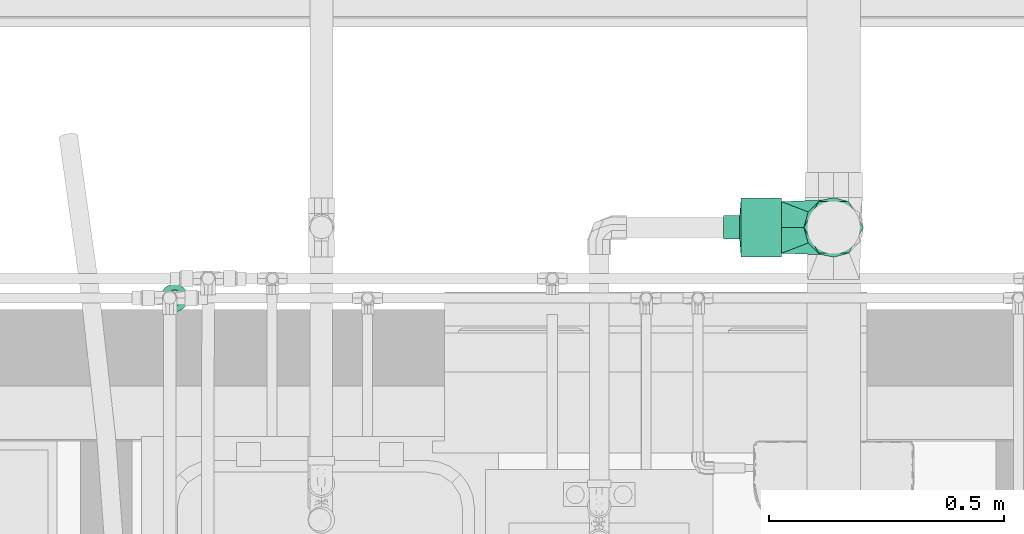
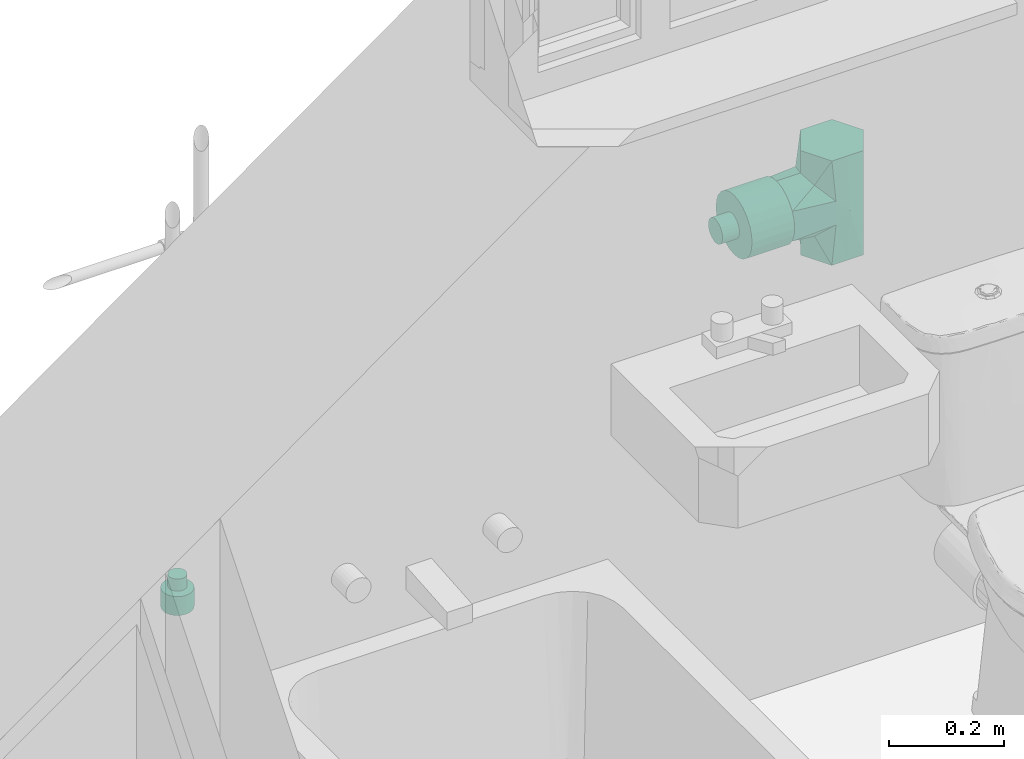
# One storey, part 34 of 41: 3 flow fittings.
"""IFC2X3 building model written with IfcOpenShell, lengths in millimetres."""

from ifc_helpers import new_model, entity, si_unit, converted_unit, derived_unit, direction, frame, origin, place, context, subcontext, project, spatial, faceted_brep, source, transform, mapped, type_object, type_shapes, element, save


model = new_model("IFC2X3")

# Units and contexts
model_context = context("Model", 3, precision=0.01, world=origin(), true_north=direction((6.12303176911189e-17, 1.0)))
body_context = subcontext(model_context, "Body", "Model", "MODEL_VIEW")
ifc_project = project(units=[si_unit("LENGTHUNIT", "METRE", prefix="MILLI"), si_unit("AREAUNIT", "SQUARE_METRE"), si_unit("VOLUMEUNIT", "CUBIC_METRE"), converted_unit("PLANEANGLEUNIT", "DEGREE", entity("IfcRatioMeasure", 0.0174532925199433), si_unit("PLANEANGLEUNIT", "RADIAN"), dimensions=[0, 0, 0, 0, 0, 0, 0]), si_unit("MASSUNIT", "GRAM", prefix="KILO"), derived_unit("MASSDENSITYUNIT", [(si_unit("MASSUNIT", "GRAM", prefix="KILO"), 1), (si_unit("LENGTHUNIT", "METRE"), -3)]), si_unit("TIMEUNIT", "SECOND"), si_unit("FREQUENCYUNIT", "HERTZ"), si_unit("THERMODYNAMICTEMPERATUREUNIT", "DEGREE_CELSIUS"), derived_unit("THERMALTRANSMITTANCEUNIT", [(si_unit("MASSUNIT", "GRAM", prefix="KILO"), 1), (si_unit("THERMODYNAMICTEMPERATUREUNIT", "KELVIN"), -1), (si_unit("TIMEUNIT", "SECOND"), -3)]), derived_unit("VOLUMETRICFLOWRATEUNIT", [(si_unit("LENGTHUNIT", "METRE"), 3), (si_unit("TIMEUNIT", "SECOND"), -1)]), si_unit("ELECTRICCURRENTUNIT", "AMPERE"), si_unit("ELECTRICVOLTAGEUNIT", "VOLT"), si_unit("POWERUNIT", "WATT"), si_unit("FORCEUNIT", "NEWTON", prefix="KILO"), si_unit("ILLUMINANCEUNIT", "LUX"), si_unit("LUMINOUSFLUXUNIT", "LUMEN"), si_unit("LUMINOUSINTENSITYUNIT", "CANDELA"), derived_unit("USERDEFINED", [(si_unit("MASSUNIT", "GRAM", prefix="KILO"), -1), (si_unit("LENGTHUNIT", "METRE"), -2), (si_unit("TIMEUNIT", "SECOND"), 3), (si_unit("LUMINOUSFLUXUNIT", "LUMEN"), 1)]), derived_unit("LINEARVELOCITYUNIT", [(si_unit("LENGTHUNIT", "METRE"), 1), (si_unit("TIMEUNIT", "SECOND"), -1)]), si_unit("PRESSUREUNIT", "PASCAL"), derived_unit("USERDEFINED", [(si_unit("LENGTHUNIT", "METRE"), -2), (si_unit("MASSUNIT", "GRAM", prefix="KILO"), 1), (si_unit("TIMEUNIT", "SECOND"), -2)])], contexts=[model_context])

# Site, building, storey
site_placement = place(None, origin())
site = spatial("IfcSite", under=ifc_project, at=site_placement, Name="Surface", CompositionType="ELEMENT")
building_placement = place(site_placement, origin())
building = spatial("IfcBuilding", under=site, at=building_placement, CompositionType="ELEMENT")
storey_placement = place(building_placement, frame((0.0, 0.0, 300.0)))
storey = spatial("IfcBuildingStorey", under=building, at=storey_placement, Name="F.F.L", CompositionType="ELEMENT", Elevation=300.0)

# Flow fittings
pipe_fitting_type_1 = type_object("IfcPipeFittingType", Name="Standard", PredefinedType="NOTDEFINED")
shared_shape_1 = source(origin(), body_context, "Body", "Brep", [
    faceted_brep([(28.5750000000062, -29.3949218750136, 0.0), (28.5750000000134, -26.5879566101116, -8.63895078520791), (28.5750000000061, -23.7809913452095, -17.277901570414), (28.5750000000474, -16.4322608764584, -22.6170667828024), (28.575000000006, -9.08353040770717, -27.9562319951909), (28.5750000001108, 0.0, -27.956231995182), (28.575000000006, 9.08353040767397, -27.9562319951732), (28.5750000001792, 16.4322608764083, -22.6170667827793), (28.5750000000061, 23.7809913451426, -17.2779015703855), (28.5750000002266, 26.5879566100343, -8.63895078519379), (28.5750000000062, 29.3949218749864, 0.0), (28.5749999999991, 26.5879566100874, 8.63895078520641), (28.5750000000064, 23.7809913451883, 17.2779015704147), (28.5749999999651, 16.4322608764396, 22.6170667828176), (28.5750000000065, 9.08353040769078, 27.9562319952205), (28.5749999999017, 0.0, 27.9562319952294), (28.5750000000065, -9.0835304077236, 27.9562319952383), (28.5749999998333, -16.4322608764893, 22.6170667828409), (28.5750000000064, -23.780991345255, 17.2779015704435), (28.5749999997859, -26.5879566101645, 8.63895078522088), (25.4000000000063, 17.017999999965, 0.0), (25.4000000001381, 16.106670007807, -2.20014522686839), (25.4000000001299, 14.5257716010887, -6.01677160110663), (25.4000000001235, 13.2796574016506, -9.02515740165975), (25.4000000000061, 12.0335432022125, -12.0335432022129), (25.4000000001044, 9.02515740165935, -13.2796574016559), (25.4000000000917, 6.01677160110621, -14.5257716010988), (25.400000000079, 3.00838580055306, -15.7718858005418), (25.4000000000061, 0.0, -17.0179999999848), (25.4000000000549, -3.00838580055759, -15.7718858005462), (25.4000000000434, -6.0167716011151, -14.5257716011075), (25.400000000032, -9.02515740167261, -13.2796574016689), (25.4000000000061, -12.0335432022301, -12.0335432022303), (25.4000000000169, -13.2796574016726, -9.02515740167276), (25.4000000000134, -14.5257716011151, -6.01677160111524), (25.4000000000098, -15.7718858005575, -3.00838580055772), (25.4000000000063, -17.018000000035, 0.0), (25.3999999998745, -16.1066700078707, 2.20014522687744), (25.3999999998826, -14.5257716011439, 6.01677160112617), (25.3999999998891, -13.2796574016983, 9.02515740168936), (25.4000000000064, -12.0335432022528, 12.0335432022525), (25.3999999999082, -9.02515740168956, 13.2796574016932), (25.3999999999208, -6.01677160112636, 14.5257716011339), (25.3999999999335, -3.00838580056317, 15.7718858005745), (25.4000000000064, 0.0, 17.0180000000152), (25.3999999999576, 3.00838580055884, 15.7718858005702), (25.3999999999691, 6.01677160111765, 14.5257716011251), (25.3999999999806, 9.02515740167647, 13.2796574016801), (25.4000000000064, 12.0335432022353, 12.033543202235), (25.3999999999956, 13.2796574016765, 9.02515740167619), (25.3999999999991, 14.5257716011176, 6.01677160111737), (25.4000000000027, 15.7718858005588, 3.00838580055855)], [[[0, 1, 2, 3, 4, 5, 6, 7, 8, 9, 10, 11, 12, 13, 14, 15, 16, 17, 18, 19]], [[20, 21, 22, 23, 24, 25, 26, 27, 28, 29, 30, 31, 32, 33, 34, 35, 36, 37, 38, 39, 40, 41, 42, 43, 44, 45, 46, 47, 48, 49, 50, 51]], [[0, 35, 1]], [[23, 22, 8, 24]], [[3, 32, 31, 30]], [[30, 4, 3]], [[2, 34, 33, 32]], [[5, 29, 28]], [[34, 2, 1]], [[5, 27, 6]], [[4, 29, 5]], [[9, 21, 10]], [[24, 8, 7]], [[7, 26, 25, 24]], [[21, 9, 22]], [[4, 30, 29]], [[35, 0, 36]], [[27, 5, 28]], [[27, 26, 6]], [[3, 2, 32]], [[9, 8, 22]], [[21, 20, 10]], [[26, 7, 6]], [[35, 34, 1]], [[10, 51, 11]], [[39, 38, 18, 40]], [[13, 48, 47, 46]], [[46, 14, 13]], [[12, 50, 49, 48]], [[15, 45, 44]], [[50, 12, 11]], [[15, 43, 16]], [[14, 45, 15]], [[19, 37, 0]], [[40, 18, 17]], [[17, 42, 41, 40]], [[37, 19, 38]], [[14, 46, 45]], [[51, 10, 20]], [[43, 15, 44]], [[43, 42, 16]], [[13, 12, 48]], [[19, 18, 38]], [[37, 36, 0]], [[42, 17, 16]], [[51, 50, 11]]]),
    faceted_brep([(68.896875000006, 0.0, -29.3949218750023), (68.896875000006, 7.60796561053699, -28.3933142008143), (68.896875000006, 14.6974609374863, -25.4567490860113), (68.896875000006, 20.7853485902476, -20.7853485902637), (68.8968750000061, 25.4567490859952, -14.6974609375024), (68.8968750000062, 28.3933142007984, -7.60796561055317), (68.8968750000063, 29.3949218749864, 0.0), (68.8968750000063, 28.3933142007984, 7.6079656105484), (68.8968750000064, 25.4567490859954, 14.6974609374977), (68.8968750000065, 20.7853485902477, 20.785348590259), (68.8968750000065, 14.6974609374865, 25.4567490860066), (68.8968750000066, 7.60796561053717, 28.3933142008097), (68.8968750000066, 0.0, 29.3949218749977), (68.8968750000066, -7.60796561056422, 28.3933142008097), (68.8968750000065, -14.6974609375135, 25.4567490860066), (68.8968750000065, -20.7853485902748, 20.785348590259), (68.8968750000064, -25.4567490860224, 14.6974609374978), (68.8968750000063, -28.3933142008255, 7.60796561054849), (68.8968750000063, -29.3949218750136, 0.0), (68.8968750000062, -28.3933142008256, -7.60796561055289), (68.8968750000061, -25.4567490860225, -14.6974609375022), (68.896875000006, -20.7853485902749, -20.7853485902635), (68.896875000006, -14.6974609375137, -25.4567490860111), (68.896875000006, -7.60796561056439, -28.3933142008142), (28.5750000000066, 0.0, 29.3949218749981), (28.5750000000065, 7.60796561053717, 28.3933142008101), (28.5750000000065, 14.6974609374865, 25.456749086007), (28.5750000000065, 20.7853485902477, 20.7853485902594), (28.5750000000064, 25.4567490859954, 14.6974609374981), (28.5750000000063, 28.3933142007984, 7.60796561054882), (28.5750000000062, 29.3949218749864, 0.0), (28.5750000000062, 28.3933142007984, -7.60796561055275), (28.5750000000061, 25.4567490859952, -14.697460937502), (28.575000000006, 20.7853485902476, -20.7853485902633), (28.575000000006, 14.6974609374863, -25.4567490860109), (28.575000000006, 7.60796561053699, -28.3933142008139), (28.575000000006, 0.0, -29.3949218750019), (28.575000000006, -7.60796561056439, -28.3933142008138), (28.575000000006, -14.6974609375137, -25.4567490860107), (28.575000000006, -20.7853485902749, -20.7853485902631), (28.5750000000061, -25.4567490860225, -14.6974609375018), (28.5750000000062, -28.3933142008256, -7.60796561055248), (28.5750000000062, -29.3949218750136, 0.0), (28.5750000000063, -28.3933142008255, 7.60796561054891), (28.5750000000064, -25.4567490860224, 14.6974609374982), (28.5750000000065, -20.7853485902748, 20.7853485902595), (28.5750000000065, -14.6974609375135, 25.4567490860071), (28.5750000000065, -7.60796561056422, 28.3933142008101)], [[[0, 1, 2, 3, 4, 5, 6, 7, 8, 9, 10, 11, 12, 13, 14, 15, 16, 17, 18, 19, 20, 21, 22, 23]], [[24, 25, 26, 27, 28, 29, 30, 31, 32, 33, 34, 35, 36, 37, 38, 39, 40, 41, 42, 43, 44, 45, 46, 47]], [[19, 18, 42, 41]], [[20, 19, 41, 40]], [[22, 38, 37, 23]], [[36, 0, 23, 37]], [[39, 21, 20, 40]], [[39, 38, 22, 21]], [[1, 35, 34, 2]], [[33, 3, 2, 34]], [[4, 32, 31, 5]], [[33, 32, 4, 3]], [[5, 31, 30, 6]], [[35, 1, 0, 36]], [[29, 7, 6, 30]], [[28, 8, 7, 29]], [[28, 27, 9, 8]], [[27, 26, 10, 9]], [[25, 11, 10, 26]], [[12, 11, 25, 24]], [[13, 47, 46, 14]], [[45, 15, 14, 46]], [[16, 44, 43, 17]], [[45, 44, 16, 15]], [[17, 43, 42, 18]], [[47, 13, 12, 24]]]),
    faceted_brep([(25.4000000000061, 4.40458250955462, -16.4381257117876), (25.4000000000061, 8.50899999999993, -14.7380203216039), (25.4000000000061, 12.0335432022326, -12.033543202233), (25.4000000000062, 14.7380203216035, -8.50900000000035), (25.4000000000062, 16.4381257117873, -4.40458250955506), (25.4000000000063, 17.018, 0.0), (25.4000000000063, 16.4381257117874, 4.40458250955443), (25.4000000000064, 14.7380203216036, 8.50899999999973), (25.4000000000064, 12.0335432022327, 12.0335432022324), (25.4000000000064, 8.50900000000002, 14.7380203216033), (25.4000000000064, 4.40458250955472, 16.4381257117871), (25.4000000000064, 0.0, 17.0179999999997), (25.4000000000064, -4.40458250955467, 16.4381257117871), (25.4000000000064, -8.50899999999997, 14.7380203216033), (25.4000000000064, -12.0335432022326, 12.0335432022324), (25.4000000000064, -14.7380203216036, 8.50899999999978), (25.4000000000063, -16.4381257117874, 4.40458250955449), (25.4000000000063, -17.018, 0.0), (25.4000000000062, -16.4381257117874, -4.4045825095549), (25.4000000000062, -14.7380203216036, -8.50900000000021), (25.4000000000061, -12.0335432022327, -12.0335432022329), (25.4000000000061, -8.50900000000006, -14.7380203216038), (25.4000000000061, -4.40458250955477, -16.4381257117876), (25.4000000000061, 0.0, -17.0180000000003), (0.0, 12.0335432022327, 12.0335432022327), (0.0, 14.7380203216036, 8.509), (0.0, 16.4381257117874, 4.40458250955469), (0.0, 17.018, 0.0), (0.0, 16.4381257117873, -4.4045825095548), (0.0, 14.7380203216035, -8.50900000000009), (0.0, 12.0335432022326, -12.0335432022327), (0.0, 8.50899999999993, -14.7380203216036), (0.0, 4.40458250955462, -16.4381257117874), (0.0, 0.0, -17.018), (0.0, -4.40458250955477, -16.4381257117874), (0.0, -8.50900000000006, -14.7380203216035), (0.0, -12.0335432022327, -12.0335432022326), (0.0, -14.7380203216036, -8.50899999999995), (0.0, -16.4381257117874, -4.40458250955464), (0.0, -17.018, 0.0), (0.0, -16.4381257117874, 4.40458250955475), (0.0, -14.7380203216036, 8.50900000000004), (0.0, -12.0335432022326, 12.0335432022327), (0.0, -8.50899999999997, 14.7380203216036), (0.0, -4.40458250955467, 16.4381257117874), (0.0, 0.0, 17.018), (0.0, 4.40458250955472, 16.4381257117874), (0.0, 8.50900000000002, 14.7380203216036)], [[[0, 1, 2, 3, 4, 5, 6, 7, 8, 9, 10, 11, 12, 13, 14, 15, 16, 17, 18, 19, 20, 21, 22, 23]], [[24, 25, 26, 27, 28, 29, 30, 31, 32, 33, 34, 35, 36, 37, 38, 39, 40, 41, 42, 43, 44, 45, 46, 47]], [[38, 18, 17, 39]], [[37, 19, 18, 38]], [[21, 20, 36, 35]], [[37, 36, 20, 19]], [[22, 21, 35, 34]], [[22, 34, 33, 23]], [[0, 32, 31, 1]], [[30, 2, 1, 31]], [[3, 29, 28, 4]], [[30, 29, 3, 2]], [[4, 28, 27, 5]], [[0, 23, 33, 32]], [[26, 6, 5, 27]], [[25, 7, 6, 26]], [[9, 8, 24, 47]], [[25, 24, 8, 7]], [[10, 9, 47, 46]], [[10, 46, 45, 11]], [[12, 44, 43, 13]], [[42, 14, 13, 43]], [[15, 41, 40, 16]], [[42, 41, 15, 14]], [[16, 40, 39, 17]], [[11, 45, 44, 12]]]),
])
type_shapes(pipe_fitting_type_1, [shared_shape_1])
flow_fitting_1_placement = place(storey_placement, frame((-4386.87517007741, 10850.8400891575, 429.178124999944), z_axis=(0.0, 1.0, 0.0), x_axis=(0.0, 0.0, -1.0)))
element("IfcFlowFitting", 1, at=flow_fitting_1_placement, inside=storey, type_object=pipe_fitting_type_1, Name="M_Coupling Reducing - PVC - Sch 40:Standard", ObjectType="Standard", context=body_context, shape_type="MappedRepresentation", body=[
    mapped(shared_shape_1, transform((0.0, 0.0, 0.0), scale=1.0)),
])
pipe_fitting_type_2 = type_object("IfcPipeFittingType", Name="Standard", PredefinedType="NOTDEFINED")
shared_shape_2 = source(origin(), body_context, "Body", "Brep", [
    faceted_brep([(-111.124999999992, 31.7499999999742, 54.9926131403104), (-111.124999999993, 47.6249999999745, 27.4963065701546), (-111.124999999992, 63.4999999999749, 0.0), (-111.124999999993, 44.5212450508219, -32.8721678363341), (-111.124999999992, 31.7499999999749, -54.9926131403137), (-111.124999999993, 0.0, -54.9926131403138), (-111.124999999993, -31.750000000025, -54.9926131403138), (-111.124999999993, -47.6250000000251, -27.4963065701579), (-111.124999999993, -63.5000000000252, 0.0), (-111.124999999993, -47.6250000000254, 27.4963065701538), (-111.124999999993, -31.7500000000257, 54.9926131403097), (-111.124999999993, 0.0, 54.99261314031), (111.125000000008, 31.7499999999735, 54.9926131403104), (111.125000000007, 0.0, 54.99261314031), (111.125000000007, -31.7500000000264, 54.9926131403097), (111.125000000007, -47.6250000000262, 27.4963065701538), (111.125000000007, -63.5000000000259, 0.0), (111.125000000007, -47.6250000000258, -27.4963065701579), (111.125000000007, -31.7500000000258, -54.9926131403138), (111.125000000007, 0.0, -54.9926131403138), (111.125000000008, 31.7499999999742, -54.9926131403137), (111.125000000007, 47.6249999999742, -27.4963065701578), (111.125000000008, 63.4999999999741, 0.0), (111.125000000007, 44.5212464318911, 32.8721654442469), (63.4997906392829, -63.5000000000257, 0.0), (-63.5002093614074, -63.5000000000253, 0.0), (54.1776603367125, -54.1778389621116, 33.1211679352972), (-54.1779921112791, -54.177813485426, 33.1212096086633), (-25.3375857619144, -25.3375022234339, 58.2259476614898), (25.3374465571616, -25.3375300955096, 58.2259355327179), (0.0, 0.0, 63.4999999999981), (25.3374465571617, -25.3375300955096, -58.2259355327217), (0.0, 0.0, -63.5000000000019), (-54.1779921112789, -54.1778134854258, -33.1212096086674), (-25.337585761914, -25.3375022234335, -58.2259476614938), (54.1776603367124, -54.1778389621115, -33.1211679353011), (31.7496336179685, -111.125104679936, -54.9926131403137), (47.6246336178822, -111.125157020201, -27.4963065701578), (63.4996336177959, -111.125209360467, 0.0), (47.6246336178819, -111.125157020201, 27.4963065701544), (31.7496336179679, -111.125104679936, 54.9926131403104), (-0.000366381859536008, -111.124999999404, 54.99261314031), (-31.7503663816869, -111.124895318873, 54.9926131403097), (-47.6253663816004, -111.124842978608, 27.4963065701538), (-63.5003663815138, -111.124790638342, 0.0), (-47.6253663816, -111.124842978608, -27.4963065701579), (-31.7503663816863, -111.124895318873, -54.9926131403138), (-0.000366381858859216, -111.124999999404, -54.9926131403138)], [[[0, 1, 2, 3, 4, 5, 6, 7, 8, 9, 10, 11]], [[12, 13, 14, 15, 16, 17, 18, 19, 20, 21, 22, 23]], [[16, 15, 24]], [[9, 8, 25]], [[22, 2, 1, 0, 12, 23]], [[26, 15, 14]], [[25, 27, 9]], [[28, 10, 27]], [[29, 13, 30]], [[24, 15, 26]], [[27, 10, 9]], [[29, 14, 13]], [[30, 13, 12]], [[11, 10, 28]], [[30, 0, 11]], [[0, 30, 12]], [[11, 28, 30]], [[29, 26, 14]], [[20, 4, 3, 2, 22, 21]], [[31, 19, 18]], [[32, 19, 31]], [[4, 32, 5]], [[25, 7, 33]], [[20, 32, 4]], [[5, 34, 6]], [[34, 5, 32]], [[32, 20, 19]], [[17, 16, 24]], [[8, 7, 25]], [[24, 35, 17]], [[6, 33, 7]], [[6, 34, 33]], [[35, 18, 17]], [[35, 31, 18]], [[36, 37, 38, 39, 40, 41, 42, 43, 44, 45, 46, 47]], [[43, 42, 27]], [[25, 43, 27]], [[25, 44, 43]], [[28, 27, 42]], [[28, 41, 29]], [[29, 41, 40]], [[39, 38, 24]], [[39, 24, 26]], [[26, 40, 39]], [[28, 29, 30]], [[26, 29, 40]], [[28, 42, 41]], [[37, 36, 35]], [[24, 37, 35]], [[24, 38, 37]], [[31, 35, 36]], [[47, 46, 34]], [[45, 44, 25]], [[34, 32, 31]], [[45, 25, 33]], [[33, 46, 45]], [[31, 36, 47]], [[33, 34, 46]], [[31, 47, 34]]]),
])
type_shapes(pipe_fitting_type_2, [shared_shape_2])
flow_fitting_2_placement = place(storey_placement, frame((-2982.45100478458, 11001.1416737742, 657.830579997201), z_axis=(0.0, 1.0, 0.0), x_axis=(0.0, 0.0, 1.0)))
element("IfcFlowFitting", 2, at=flow_fitting_2_placement, inside=storey, type_object=pipe_fitting_type_2, Name="M_Tee - PVC - Sch 40:Standard", ObjectType="Standard", context=body_context, shape_type="MappedRepresentation", body=[
    mapped(shared_shape_2, transform((0.0, 0.0, 0.0), scale=1.0)),
])
pipe_fitting_type_3 = type_object("IfcPipeFittingType", Name="Standard", PredefinedType="NOTDEFINED")
shared_shape_3 = source(origin(), body_context, "Body", "Brep", [
    faceted_brep([(89.0968750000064, -20.1565952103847, 14.644623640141), (89.0968749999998, -22.5357585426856, 7.32231182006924), (89.0968750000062, -24.9149218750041, 0.0), (89.096875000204, -22.535758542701, -7.32231182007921), (89.0968750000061, -20.1565952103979, -14.6446236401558), (89.0968750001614, -13.9278647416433, -19.1700612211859), (89.096875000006, -7.69913427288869, -23.695498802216), (89.0968750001, 0.0, -23.6954988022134), (89.096875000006, 7.69913427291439, -23.6954988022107), (89.0968750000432, 13.927864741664, -19.170061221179), (89.0968750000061, 20.1565952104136, -14.6446236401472), (89.0968750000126, 22.5357585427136, -7.32231182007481), (89.0968750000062, 24.9149218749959, 0.0), (89.0968749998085, 22.5357585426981, 7.32231182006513), (89.0968750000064, 20.1565952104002, 14.6446236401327), (89.0968749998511, 13.9278647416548, 19.1700612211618), (89.0968750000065, 7.69913427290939, 23.6954988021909), (89.0968749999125, 0.0, 23.6954988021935), (89.0968750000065, -7.69913427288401, 23.695498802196), (89.0968749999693, -13.9278647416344, 19.1700612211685), (85.9218750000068, -39.2766913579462, 49.2514131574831), (85.9218749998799, -26.6471901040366, 55.3334604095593), (85.9218750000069, -14.0176888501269, 61.4155076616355), (85.9218749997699, 0.0, 61.4155076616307), (85.9218750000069, 14.0176888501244, 61.4155076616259), (85.9218749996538, 26.6471901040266, 55.3334604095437), (85.9218750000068, 39.2766913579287, 49.2514131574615), (85.9218749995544, 48.0165774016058, 38.2919427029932), (85.9218750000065, 56.7564634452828, 27.3324722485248), (85.9218749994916, 59.8756926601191, 13.6662361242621), (85.9218750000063, 62.994921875, 0.0), (85.9218750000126, 59.8756926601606, -13.6662361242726), (85.921875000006, 56.7564634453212, -27.3324722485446), (85.9218750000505, 48.0165774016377, -38.2919427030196), (85.9218750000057, 39.2766913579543, -49.2514131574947), (85.9218750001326, 26.647190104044, -55.3334604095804), (85.9218750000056, 14.0176888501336, -61.4155076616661), (85.9218750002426, 0.0, -61.415507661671), (85.9218750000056, -14.0176888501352, -61.4155076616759), (85.9218750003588, -26.6471901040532, -55.3334604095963), (85.9218750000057, -39.2766913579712, -49.2514131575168), (85.9218750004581, -48.0165774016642, -38.2919427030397), (85.921875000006, -56.7564634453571, -27.3324722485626), (85.9218750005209, -59.8756926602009, -13.6662361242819), (85.9218750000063, -62.994921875, 0.0), (85.9218749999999, -59.8756926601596, 13.6662361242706), (85.9218750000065, -56.7564634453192, 27.3324722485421), (85.921874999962, -48.0165774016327, 38.2919427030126)], [[[0, 1, 2, 3, 4, 5, 6, 7, 8, 9, 10, 11, 12, 13, 14, 15, 16, 17, 18, 19]], [[20, 21, 22, 23, 24, 25, 26, 27, 28, 29, 30, 31, 32, 33, 34, 35, 36, 37, 38, 39, 40, 41, 42, 43, 44, 45, 46, 47]], [[35, 8, 36]], [[11, 32, 31]], [[39, 38, 6]], [[2, 44, 43]], [[5, 4, 40]], [[11, 10, 32]], [[43, 3, 2]], [[41, 40, 4, 42]], [[6, 5, 39]], [[42, 4, 3]], [[7, 6, 38, 37, 36, 8]], [[39, 5, 40]], [[9, 34, 10]], [[8, 35, 9]], [[33, 32, 10, 34]], [[11, 31, 12]], [[34, 9, 35]], [[43, 42, 3]], [[30, 12, 31]], [[21, 18, 22]], [[1, 46, 45]], [[25, 24, 16]], [[12, 30, 29]], [[15, 14, 26]], [[1, 0, 46]], [[29, 13, 12]], [[27, 26, 14, 28]], [[16, 15, 25]], [[28, 14, 13]], [[17, 16, 24, 23, 22, 18]], [[25, 15, 26]], [[19, 20, 0]], [[18, 21, 19]], [[47, 46, 0, 20]], [[1, 45, 2]], [[20, 19, 21]], [[29, 28, 13]], [[44, 2, 45]]]),
    faceted_brep([(123.338750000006, -12.4574609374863, -21.5769552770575), (123.338750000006, -6.44845628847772, -24.0659664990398), (123.338750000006, 0.0, -24.9149218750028), (123.338750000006, 6.44845628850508, -24.0659664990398), (123.338750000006, 12.4574609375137, -21.5769552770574), (123.338750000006, 17.6175102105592, -17.6175102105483), (123.338750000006, 21.5769552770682, -12.4574609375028), (123.338750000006, 24.0659664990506, -6.44845628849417), (123.338750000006, 24.9149218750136, 0.0), (123.338750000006, 24.0659664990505, 6.44845628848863), (123.338750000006, 21.5769552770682, 12.4574609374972), (123.338750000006, 17.6175102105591, 17.6175102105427), (123.338750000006, 12.4574609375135, 21.5769552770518), (123.338750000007, 6.44845628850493, 24.0659664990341), (123.338750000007, 0.0, 24.9149218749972), (123.338750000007, -6.44845628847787, 24.0659664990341), (123.338750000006, -12.4574609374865, 21.5769552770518), (123.338750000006, -17.617510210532, 17.6175102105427), (123.338750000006, -21.5769552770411, 12.4574609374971), (123.338750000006, -24.0659664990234, 6.44845628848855), (123.338750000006, -24.9149218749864, 0.0), (123.338750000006, -24.0659664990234, -6.44845628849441), (123.338750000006, -21.576955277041, -12.457460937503), (123.338750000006, -17.6175102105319, -17.6175102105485), (89.0968750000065, -12.4574609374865, 21.5769552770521), (89.0968750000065, -6.44845628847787, 24.0659664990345), (89.0968750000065, 0.0, 24.9149218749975), (89.0968750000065, 6.44845628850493, 24.0659664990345), (89.0968750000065, 12.4574609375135, 21.5769552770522), (89.0968750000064, 17.6175102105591, 17.6175102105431), (89.0968750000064, 21.5769552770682, 12.4574609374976), (89.0968750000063, 24.0659664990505, 6.44845628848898), (89.0968750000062, 24.9149218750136, 0.0), (89.0968750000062, 24.0659664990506, -6.44845628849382), (89.0968750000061, 21.5769552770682, -12.4574609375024), (89.0968750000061, 17.6175102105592, -17.617510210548), (89.096875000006, 12.4574609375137, -21.5769552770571), (89.096875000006, 6.44845628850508, -24.0659664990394), (89.096875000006, 0.0, -24.9149218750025), (89.096875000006, -6.44845628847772, -24.0659664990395), (89.096875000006, -12.4574609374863, -21.5769552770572), (89.0968750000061, -17.6175102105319, -17.6175102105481), (89.0968750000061, -21.576955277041, -12.4574609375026), (89.0968750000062, -24.0659664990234, -6.44845628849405), (89.0968750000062, -24.9149218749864, 0.0), (89.0968750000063, -24.0659664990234, 6.4484562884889), (89.0968750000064, -21.5769552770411, 12.4574609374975), (89.0968750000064, -17.617510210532, 17.617510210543)], [[[0, 1, 2, 3, 4, 5, 6, 7, 8, 9, 10, 11, 12, 13, 14, 15, 16, 17, 18, 19, 20, 21, 22, 23]], [[24, 25, 26, 27, 28, 29, 30, 31, 32, 33, 34, 35, 36, 37, 38, 39, 40, 41, 42, 43, 44, 45, 46, 47]], [[32, 8, 7, 33]], [[33, 7, 6, 34]], [[3, 2, 38, 37]], [[34, 6, 5, 35]], [[5, 4, 36, 35]], [[3, 37, 36, 4]], [[40, 39, 1, 0]], [[40, 0, 23, 41]], [[43, 42, 22, 21]], [[23, 22, 42, 41]], [[44, 43, 21, 20]], [[2, 1, 39, 38]], [[44, 20, 19, 45]], [[45, 19, 18, 46]], [[47, 17, 16, 24]], [[46, 18, 17, 47]], [[25, 15, 14, 26]], [[24, 16, 15, 25]], [[28, 27, 13, 12]], [[28, 12, 11, 29]], [[31, 30, 10, 9]], [[11, 10, 30, 29]], [[32, 31, 9, 8]], [[14, 13, 27, 26]]]),
    faceted_brep([(85.9218750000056, -16.3042855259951, -60.8484219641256), (85.9218750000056, 0.0, -62.9949218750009), (85.9218750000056, 16.3042855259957, -60.8484219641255), (85.9218750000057, 31.4974609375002, -54.5552026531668), (85.9218750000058, 44.5441364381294, -44.54413643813), (85.9218750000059, 54.5552026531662, -31.4974609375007), (85.9218750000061, 60.8484219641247, -16.3042855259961), (85.9218750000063, 62.994921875, 0.0), (85.9218750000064, 60.8484219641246, 16.3042855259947), (85.9218750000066, 54.555202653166, 31.4974609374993), (85.9218750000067, 44.5441364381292, 44.5441364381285), (85.9218750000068, 31.4974609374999, 54.5552026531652), (85.9218750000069, 16.3042855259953, 60.8484219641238), (85.9218750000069, 0.0, 62.9949218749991), (85.9218750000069, -16.3042855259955, 60.8484219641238), (85.9218750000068, -31.4974609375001, 54.5552026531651), (85.9218750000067, -44.5441364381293, 44.5441364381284), (85.9218750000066, -54.5552026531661, 31.4974609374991), (85.9218750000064, -60.8484219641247, 16.3042855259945), (85.9218750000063, -62.994921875, 0.0), (85.9218750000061, -60.8484219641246, -16.3042855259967), (85.9218750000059, -54.5552026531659, -31.4974609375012), (85.9218750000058, -44.544136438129, -44.5441364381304), (85.9218750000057, -31.4974609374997, -54.5552026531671), (0.0, -16.3042855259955, 60.8484219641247), (0.0, 0.0, 62.994921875), (0.0, 16.3042855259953, 60.8484219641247), (0.0, 31.4974609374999, 54.5552026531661), (0.0, 44.5441364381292, 44.5441364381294), (0.0, 54.555202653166, 31.4974609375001), (0.0, 60.8484219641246, 16.3042855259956), (0.0, 62.994921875, 0.0), (0.0, 60.8484219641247, -16.3042855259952), (0.0, 54.5552026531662, -31.4974609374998), (0.0, 44.5441364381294, -44.5441364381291), (0.0, 31.4974609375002, -54.5552026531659), (0.0, 16.3042855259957, -60.8484219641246), (0.0, 0.0, -62.994921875), (0.0, -16.3042855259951, -60.8484219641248), (0.0, -31.4974609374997, -54.5552026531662), (0.0, -44.544136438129, -44.5441364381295), (0.0, -54.5552026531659, -31.4974609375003), (0.0, -60.8484219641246, -16.3042855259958), (0.0, -62.994921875, 0.0), (0.0, -60.8484219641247, 16.3042855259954), (0.0, -54.5552026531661, 31.4974609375), (0.0, -44.5441364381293, 44.5441364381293), (0.0, -31.4974609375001, 54.555202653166)], [[[0, 1, 2, 3, 4, 5, 6, 7, 8, 9, 10, 11, 12, 13, 14, 15, 16, 17, 18, 19, 20, 21, 22, 23]], [[24, 25, 26, 27, 28, 29, 30, 31, 32, 33, 34, 35, 36, 37, 38, 39, 40, 41, 42, 43, 44, 45, 46, 47]], [[33, 32, 6, 5]], [[33, 5, 4, 34]], [[36, 35, 3, 2]], [[4, 3, 35, 34]], [[37, 36, 2, 1]], [[31, 7, 6, 32]], [[39, 38, 0, 23]], [[39, 23, 22, 40]], [[42, 41, 21, 20]], [[22, 21, 41, 40]], [[43, 42, 20, 19]], [[1, 0, 38, 37]], [[44, 43, 19, 18]], [[44, 18, 17, 45]], [[24, 47, 15, 14]], [[25, 24, 14, 13]], [[15, 47, 46, 16]], [[45, 17, 16, 46]], [[27, 26, 12, 11]], [[27, 11, 10, 28]], [[30, 29, 9, 8]], [[10, 9, 29, 28]], [[31, 30, 8, 7]], [[13, 12, 26, 25]]]),
])
type_shapes(pipe_fitting_type_3, [shared_shape_3])
flow_fitting_3_placement = place(storey_placement, frame((-3093.64074746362, 11001.1416737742, 657.830213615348), z_axis=(-3.29702460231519e-06, 0.0, 1.0), x_axis=(-1.0, 0.0, -3.29702460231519e-06)))
element("IfcFlowFitting", 3, at=flow_fitting_3_placement, inside=storey, type_object=pipe_fitting_type_3, Name="M_Coupling Reducing - PVC - Sch 40:Standard", ObjectType="Standard", context=body_context, shape_type="MappedRepresentation", body=[
    mapped(shared_shape_3, transform((0.0, 0.0, 0.0), scale=1.0)),
])

save(model, "model.ifc")
